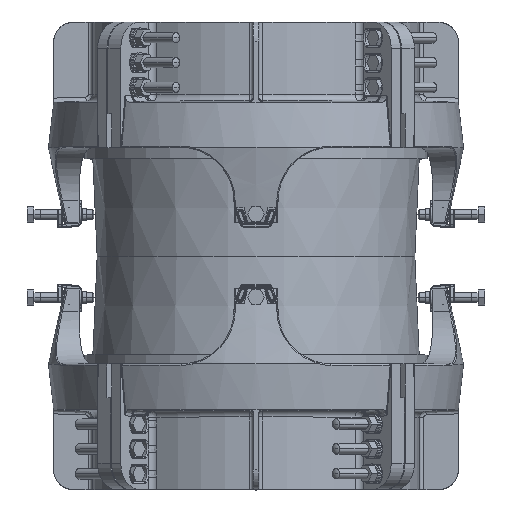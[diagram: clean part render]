
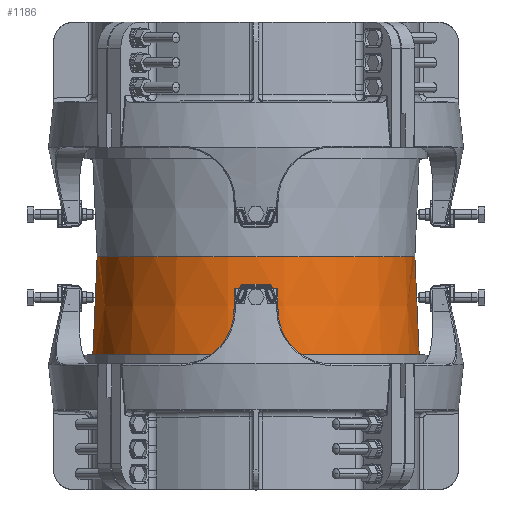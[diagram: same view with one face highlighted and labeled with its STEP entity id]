
A CAD part, top view. The second image highlights one B-rep face of the part: STEP entity #1186.
In plain terms, the highlighted conical face has half-angle 2.537 degrees and reference radius 246.331 mm.
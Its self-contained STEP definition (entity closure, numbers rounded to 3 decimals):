
#350=CARTESIAN_POINT('',(0.,-150.,0.));
#351=DIRECTION('',(0.,1.,0.));
#352=DIRECTION('',(-1.,0.,0.));
#353=AXIS2_PLACEMENT_3D('',#350,#351,#352);
#360=DIRECTION('',(0.044,-0.999,0.));
#361=VECTOR('',#360,150.147);
#362=CARTESIAN_POINT('',(243.008,0.,0.));
#363=LINE('',#362,#361);
#364=DIRECTION('',(-0.044,-0.999,0.));
#365=VECTOR('',#364,150.147);
#366=CARTESIAN_POINT('',(-243.008,0.,0.));
#367=LINE('',#366,#365);
#368=CARTESIAN_POINT('',(0.,0.,0.));
#369=DIRECTION('',(0.,-1.,0.));
#370=DIRECTION('',(1.,0.,0.));
#371=AXIS2_PLACEMENT_3D('',#368,#369,#370);
#558=CARTESIAN_POINT('',(-243.008,0.,
0.));
#559=CARTESIAN_POINT('',(243.008,0.,
0.));
#560=VERTEX_POINT('',#558);
#561=VERTEX_POINT('',#559);
#606=CARTESIAN_POINT('',(-249.653,-150.,0.));
#607=CARTESIAN_POINT('',(249.653,-150.,0.));
#608=VERTEX_POINT('',#606);
#609=VERTEX_POINT('',#607);
#1172=CARTESIAN_POINT('',(0.,-75.,0.));
#1173=DIRECTION('',(0.,-1.,0.));
#1174=DIRECTION('',(1.,0.,0.));
#1175=AXIS2_PLACEMENT_3D('',#1172,#1173,#1174);
#1176=CONICAL_SURFACE('',#1175,246.331,2.537);
#1178=ORIENTED_EDGE('',*,*,#1177,.F.);
#1180=ORIENTED_EDGE('',*,*,#1179,.T.);
#1181=ORIENTED_EDGE('',*,*,#1165,.F.);
#1183=ORIENTED_EDGE('',*,*,#1182,.F.);
#1184=EDGE_LOOP('',(#1178,#1180,#1181,#1183));
#1185=FACE_OUTER_BOUND('',#1184,.F.);
#1186=ADVANCED_FACE('',(#1185),#1176,.T.);
#354=CIRCLE('',#353,249.653);
#372=CIRCLE('',#371,243.008);
#1165=EDGE_CURVE('',#608,#609,#354,.T.);
#1177=EDGE_CURVE('',#561,#560,#372,.T.);
#1179=EDGE_CURVE('',#561,#609,#363,.T.);
#1182=EDGE_CURVE('',#560,#608,#367,.T.);
